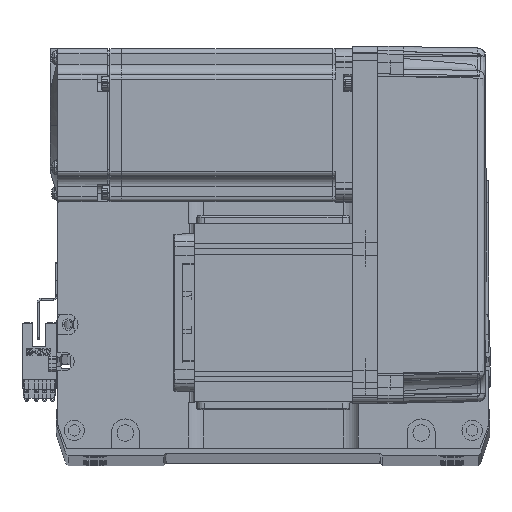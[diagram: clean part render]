
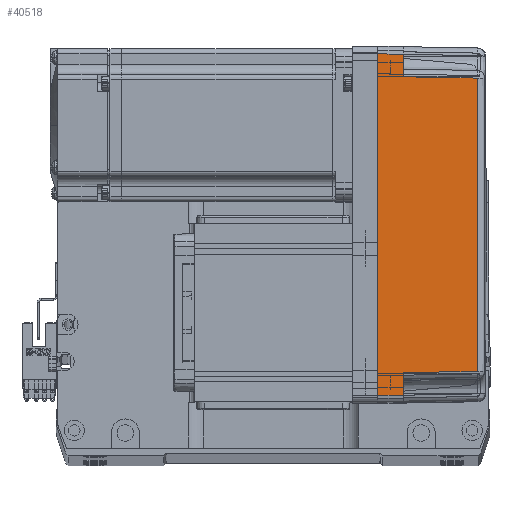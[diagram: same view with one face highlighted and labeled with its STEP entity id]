
A CAD part, top view. The second image highlights one B-rep face of the part: STEP entity #40518.
In plain terms, the highlighted planar face has unit normal (0.018, 0, 1) as drawn and (0, -1, 0.017) by its records, which use the part's own axes.
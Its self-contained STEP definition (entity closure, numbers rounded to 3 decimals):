
#170 = DIRECTION ( 'NONE',  ( -0.017, 0.017, 1. ) ) ;
#440 = EDGE_CURVE ( 'NONE', #13548, #23402, #481, .T. ) ;
#481 = B_SPLINE_CURVE_WITH_KNOTS ( 'NONE', 3,
 ( #30035, #34801, #14045, #45604 ),
 .UNSPECIFIED., .F., .F.,
 ( 4, 4 ),
 ( 0., 1. ),
 .UNSPECIFIED. ) ;
#2137 = VECTOR ( 'NONE', #34714, 1000. ) ;
#4253 = DIRECTION ( 'NONE',  ( 0., -0.017, -1. ) ) ;
#4357 = EDGE_CURVE ( 'NONE', #66018, #52173, #45862, .T. ) ;
#5391 = EDGE_CURVE ( 'NONE', #8924, #23700, #45738, .T. ) ;
#6136 = VECTOR ( 'NONE', #59743, 1000. ) ;
#8785 = ORIENTED_EDGE ( 'NONE', *, *, #44737, .F. ) ;
#8924 = VERTEX_POINT ( 'NONE', #62107 ) ;
#8979 = CARTESIAN_POINT ( 'NONE',  ( 57.495, -35.32, 38.985 ) ) ;
#10398 = CARTESIAN_POINT ( 'NONE',  ( 58., -35.825, 10. ) ) ;
#11122 = VERTEX_POINT ( 'NONE', #37973 ) ;
#13548 = VERTEX_POINT ( 'NONE', #8979 ) ;
#14045 = CARTESIAN_POINT ( 'NONE',  ( -19.165, -35.316, 39.181 ) ) ;
#15549 = VECTOR ( 'NONE', #16075, 1000. ) ;
#16075 = DIRECTION ( 'NONE',  ( -1., 0., 0. ) ) ;
#19373 = VECTOR ( 'NONE', #46370, 1000. ) ;
#20643 = DIRECTION ( 'NONE',  ( -0.017, 0.017, 1. ) ) ;
#23402 = VERTEX_POINT ( 'NONE', #48522 ) ;
#23700 = VERTEX_POINT ( 'NONE', #31015 ) ;
#26552 = LINE ( 'NONE', #33574, #6136 ) ;
#26779 = CARTESIAN_POINT ( 'NONE',  ( 70., -35.825, 10. ) ) ;
#27279 = CARTESIAN_POINT ( 'NONE',  ( -66.826, -35.825, 10. ) ) ;
#28228 = VECTOR ( 'NONE', #20643, 1000. ) ;
#30035 = CARTESIAN_POINT ( 'NONE',  ( 57.495, -35.32, 38.985 ) ) ;
#31015 = CARTESIAN_POINT ( 'NONE',  ( 66.826, -35.825, 10. ) ) ;
#31064 = CARTESIAN_POINT ( 'NONE',  ( 0., -36., 0. ) ) ;
#31650 = ORIENTED_EDGE ( 'NONE', *, *, #49688, .T. ) ;
#32057 = ORIENTED_EDGE ( 'NONE', *, *, #37830, .F. ) ;
#33574 = CARTESIAN_POINT ( 'NONE',  ( 70., -35.825, 10. ) ) ;
#33921 = LINE ( 'NONE', #40437, #2137 ) ;
#34714 = DIRECTION ( 'NONE',  ( 0.017, 0.017, 1. ) ) ;
#34801 = CARTESIAN_POINT ( 'NONE',  ( 19.165, -35.316, 39.181 ) ) ;
#35247 = PLANE ( 'NONE',  #47880 ) ;
#35479 = DIRECTION ( 'NONE',  ( 0., -1., 0.017 ) ) ;
#37830 = EDGE_CURVE ( 'NONE', #8924, #11122, #57965, .T. ) ;
#37973 = CARTESIAN_POINT ( 'NONE',  ( -67., -36., 0. ) ) ;
#38526 = CARTESIAN_POINT ( 'NONE',  ( 58., -35.825, 10. ) ) ;
#40437 = CARTESIAN_POINT ( 'NONE',  ( -66.959, -35.958, 2.39 ) ) ;
#40518 = ADVANCED_FACE ( 'NONE', ( #65107 ), #35247, .T. ) ;
#40555 = EDGE_CURVE ( 'NONE', #45983, #13548, #42151, .T. ) ;
#40671 = DIRECTION ( 'NONE',  ( -1., 0., 0. ) ) ;
#42151 = LINE ( 'NONE', #10398, #28228 ) ;
#42451 = VECTOR ( 'NONE', #170, 1000. ) ;
#44405 = EDGE_LOOP ( 'NONE', ( #45276, #50471, #49411, #63323, #31650, #66687, #8785, #32057 ) ) ;
#44737 = EDGE_CURVE ( 'NONE', #11122, #52173, #33921, .T. ) ;
#45276 = ORIENTED_EDGE ( 'NONE', *, *, #5391, .T. ) ;
#45604 = CARTESIAN_POINT ( 'NONE',  ( -57.495, -35.32, 38.985 ) ) ;
#45738 = LINE ( 'NONE', #57568, #42451 ) ;
#45862 = LINE ( 'NONE', #26779, #15549 ) ;
#45983 = VERTEX_POINT ( 'NONE', #38526 ) ;
#46370 = DIRECTION ( 'NONE',  ( -0.017, -0.017, -1. ) ) ;
#47302 = VECTOR ( 'NONE', #40671, 1000. ) ;
#47880 = AXIS2_PLACEMENT_3D ( 'NONE', #66889, #35479, #4253 ) ;
#48522 = CARTESIAN_POINT ( 'NONE',  ( -57.495, -35.32, 38.985 ) ) ;
#49411 = ORIENTED_EDGE ( 'NONE', *, *, #40555, .T. ) ;
#49688 = EDGE_CURVE ( 'NONE', #23402, #66018, #66240, .T. ) ;
#50471 = ORIENTED_EDGE ( 'NONE', *, *, #52679, .T. ) ;
#52173 = VERTEX_POINT ( 'NONE', #27279 ) ;
#52679 = EDGE_CURVE ( 'NONE', #23700, #45983, #26552, .T. ) ;
#57568 = CARTESIAN_POINT ( 'NONE',  ( 67., -36., 0. ) ) ;
#57965 = LINE ( 'NONE', #31064, #47302 ) ;
#59743 = DIRECTION ( 'NONE',  ( -1., 0., 0. ) ) ;
#61951 = CARTESIAN_POINT ( 'NONE',  ( -57.495, -35.32, 38.985 ) ) ;
#62107 = CARTESIAN_POINT ( 'NONE',  ( 67., -36., 0. ) ) ;
#63323 = ORIENTED_EDGE ( 'NONE', *, *, #440, .T. ) ;
#64678 = CARTESIAN_POINT ( 'NONE',  ( -58., -35.825, 10. ) ) ;
#65107 = FACE_OUTER_BOUND ( 'NONE', #44405, .T. ) ;
#66018 = VERTEX_POINT ( 'NONE', #64678 ) ;
#66240 = LINE ( 'NONE', #61951, #19373 ) ;
#66687 = ORIENTED_EDGE ( 'NONE', *, *, #4357, .T. ) ;
#66889 = CARTESIAN_POINT ( 'NONE',  ( 70., -36., 0. ) ) ;
